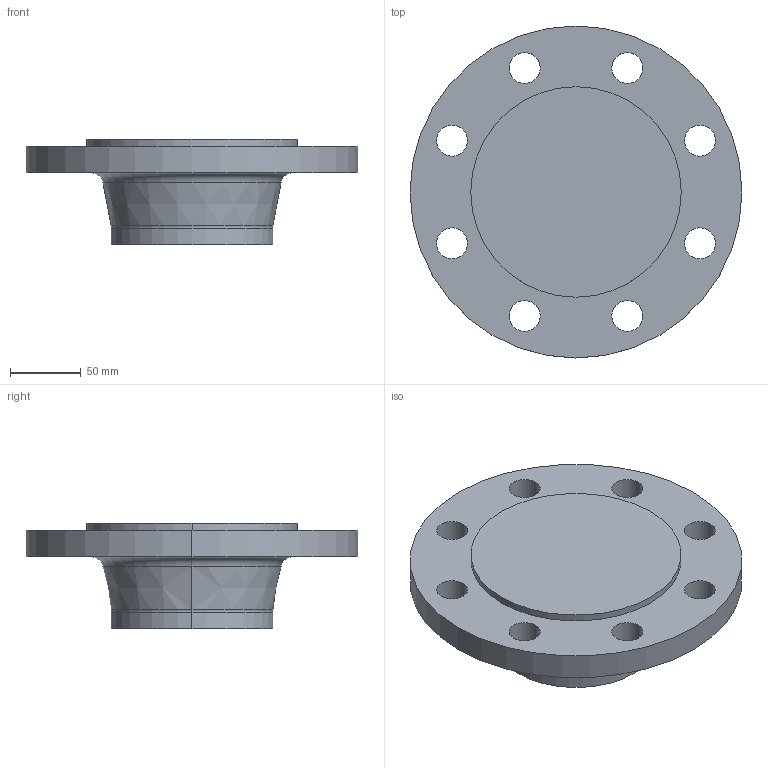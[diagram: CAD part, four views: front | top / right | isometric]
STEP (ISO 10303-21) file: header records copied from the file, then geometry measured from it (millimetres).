
FILE_DESCRIPTION (( 'STEP AP214' ), '1' );
FILE_NAME ('PN40 DN100 Type 21(ii) - Type E Face.STEP', '2019-01-02T00:12:36', ( '' ), ( '' ), 'SwSTEP 2.0', 'SolidWorks 2019', '' );
FILE_SCHEMA (( 'AUTOMOTIVE_DESIGN' ));
Length unit declared in the file: millimetre
Products named in the file (1): PN40 DN100 Type 21(ii) - Type E Face
Bounding box: 235 x 235 x 75 mm (x, y, z)
Volume: 1432077.9 mm3; surface area: 123355.7 mm2
Topology: 1 solids, 1 shells, 32 faces, 78 edges, 50 vertices
Faces by surface type: cylinder 22, torus 4, plane 4, cone 2
Entity records: 1034 total; most frequent: DIRECTION 198, CARTESIAN_POINT 161, ORIENTED_EDGE 156, AXIS2_PLACEMENT_3D 87, EDGE_CURVE 78, CIRCLE 54, EDGE_LOOP 50, VERTEX_POINT 50
